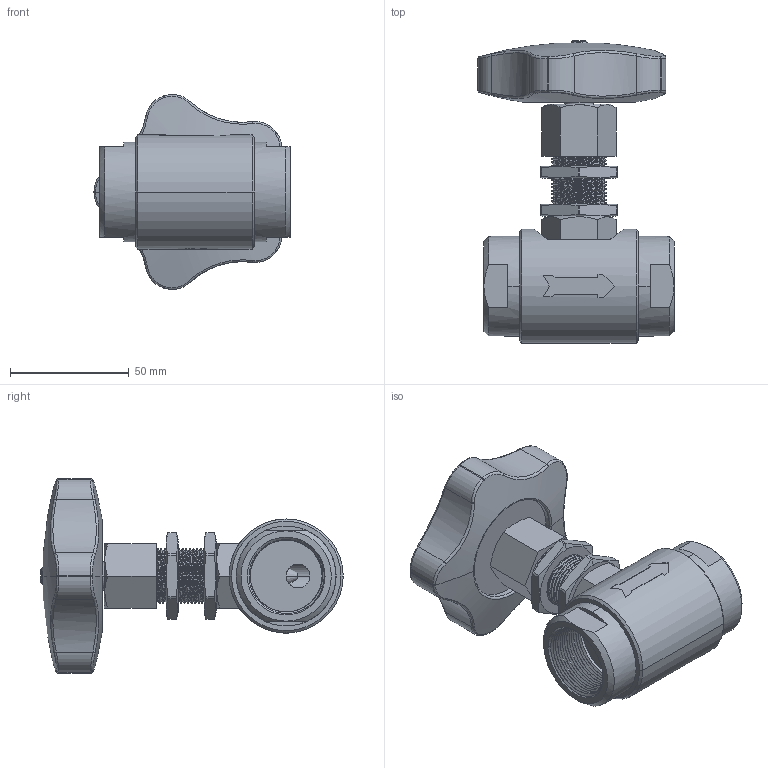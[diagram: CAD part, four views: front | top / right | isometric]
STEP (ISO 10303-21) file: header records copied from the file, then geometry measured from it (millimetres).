
FILE_DESCRIPTION((''),'2;1');
FILE_NAME('PARTE_VUOTA','2026-04-14T07:42:41',('tecnico2'),('CDM Tecnoconsulting'),'CREO PARAMETRIC BY PTC INC, 2024063','CREO PARAMETRIC BY PTC INC, 2024063','');
FILE_SCHEMA(('CONFIG_CONTROL_DESIGN','SHAPE_APPEARANCE_LAYERS_GROUPS'));
Length unit declared in the file: millimetre
Products named in the file (1): PARTE_VUOTA
Bounding box: 82.5 x 127.23 x 82.01 mm (x, y, z)
Volume: 210916.3 mm3; surface area: 57743 mm2
Topology: 1 solids, 2 shells, 704 faces, 1880 edges, 1204 vertices
Faces by surface type: cylinder 237, plane 198, bspline 116, cone 65, extrusion 56, torus 28, sphere 4
Entity records: 59823 total; most frequent: CARTESIAN_POINT 38086, ORIENTED_EDGE 3756, DIRECTION 2651, PRESENTATION_STYLE_ASSIGNMENT 1879, STYLED_ITEM 1879, CURVE_STYLE 1878, EDGE_CURVE 1878, VERTEX_POINT 1204
